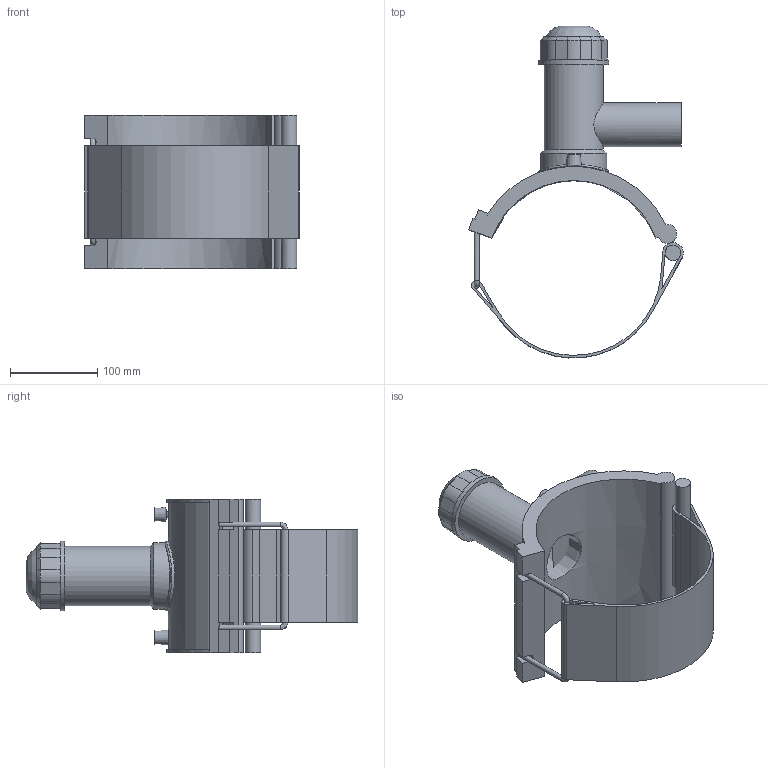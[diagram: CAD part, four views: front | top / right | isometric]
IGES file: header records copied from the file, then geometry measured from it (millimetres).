
Global section: file name: 496304200050.ipt; native system: Autodesk Inventor 2015; preprocessor: unknown; author: KIM; date: 20190124.131151; units: millimetre
Bounding box: 245.66 x 379.84 x 176 mm (x, y, z)
Volume: 1310726.1 mm3; surface area: 313687 mm2
Topology: 2 solids, 2 shells, 121 faces, 301 edges, 191 vertices
Faces by surface type: plane 68, cylinder 29, revolution 12, cone 11, bspline 1
Full cylindrical faces by diameter (mm): 4 x2, 5.6 x2, 17.692 x1, 50 x1, 68 x1, 76 x1, 80 x2
